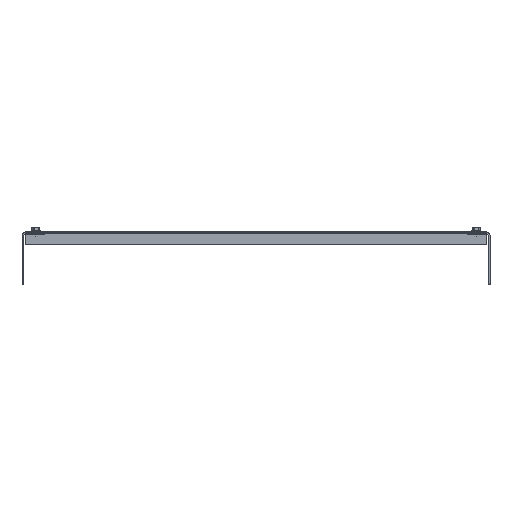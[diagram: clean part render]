
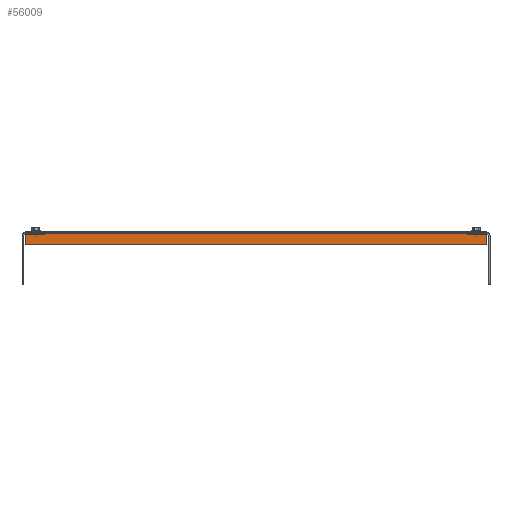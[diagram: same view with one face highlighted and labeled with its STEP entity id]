
A CAD part, front view. The second image highlights one B-rep face of the part: STEP entity #56009.
In plain terms, the highlighted planar face has unit normal (0, -1, 0).
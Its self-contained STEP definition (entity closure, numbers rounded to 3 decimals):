
#784 = EDGE_LOOP ( 'NONE', ( #39444, #23917, #14318, #39967 ) ) ;
#1746 = CARTESIAN_POINT ( 'NONE',  ( 252.5, -26.5, -2.4 ) ) ;
#1980 = LINE ( 'NONE', #47140, #14769 ) ;
#4743 = DIRECTION ( 'NONE',  ( 0., 0., 1. ) ) ;
#7278 = VERTEX_POINT ( 'NONE', #13786 ) ;
#7449 = DIRECTION ( 'NONE',  ( 0., 0., -1. ) ) ;
#9496 = VERTEX_POINT ( 'NONE', #43806 ) ;
#9617 = CARTESIAN_POINT ( 'NONE',  ( 252.5, -26.5, 0. ) ) ;
#10240 = DIRECTION ( 'NONE',  ( -1., 0., 0. ) ) ;
#12403 = LINE ( 'NONE', #25038, #32079 ) ;
#13786 = CARTESIAN_POINT ( 'NONE',  ( -252.5, -26.5, -15. ) ) ;
#14318 = ORIENTED_EDGE ( 'NONE', *, *, #29844, .F. ) ;
#14769 = VECTOR ( 'NONE', #10240, 1000. ) ;
#15665 = FACE_OUTER_BOUND ( 'NONE', #784, .T. ) ;
#17116 = PLANE ( 'NONE',  #20083 ) ;
#17821 = EDGE_CURVE ( 'NONE', #56560, #42157, #1980, .T. ) ;
#17979 = DIRECTION ( 'NONE',  ( 0., 1., 0. ) ) ;
#20083 = AXIS2_PLACEMENT_3D ( 'NONE', #52850, #17979, #4743 ) ;
#20116 = LINE ( 'NONE', #24506, #20423 ) ;
#20423 = VECTOR ( 'NONE', #42131, 1000. ) ;
#23917 = ORIENTED_EDGE ( 'NONE', *, *, #51332, .F. ) ;
#24506 = CARTESIAN_POINT ( 'NONE',  ( 252.5, -26.5, -15. ) ) ;
#25038 = CARTESIAN_POINT ( 'NONE',  ( -252.5, -26.5, 0. ) ) ;
#25271 = CARTESIAN_POINT ( 'NONE',  ( -252.5, -26.5, -2.4 ) ) ;
#29844 = EDGE_CURVE ( 'NONE', #56560, #9496, #45361, .T. ) ;
#32079 = VECTOR ( 'NONE', #7449, 1000. ) ;
#34768 = VECTOR ( 'NONE', #36556, 1000. ) ;
#36556 = DIRECTION ( 'NONE',  ( 0., 0., -1. ) ) ;
#39444 = ORIENTED_EDGE ( 'NONE', *, *, #53902, .T. ) ;
#39967 = ORIENTED_EDGE ( 'NONE', *, *, #17821, .T. ) ;
#42131 = DIRECTION ( 'NONE',  ( -1., 0., 0. ) ) ;
#42157 = VERTEX_POINT ( 'NONE', #25271 ) ;
#43806 = CARTESIAN_POINT ( 'NONE',  ( 252.5, -26.5, -15. ) ) ;
#45361 = LINE ( 'NONE', #9617, #34768 ) ;
#47140 = CARTESIAN_POINT ( 'NONE',  ( 252.5, -26.5, -2.4 ) ) ;
#51332 = EDGE_CURVE ( 'NONE', #9496, #7278, #20116, .T. ) ;
#52850 = CARTESIAN_POINT ( 'NONE',  ( 252.5, -26.5, 0. ) ) ;
#53902 = EDGE_CURVE ( 'NONE', #42157, #7278, #12403, .T. ) ;
#56009 = ADVANCED_FACE ( 'NONE', ( #15665 ), #17116, .F. ) ;
#56560 = VERTEX_POINT ( 'NONE', #1746 ) ;
